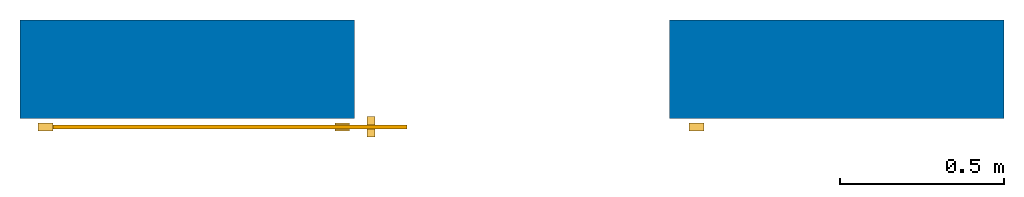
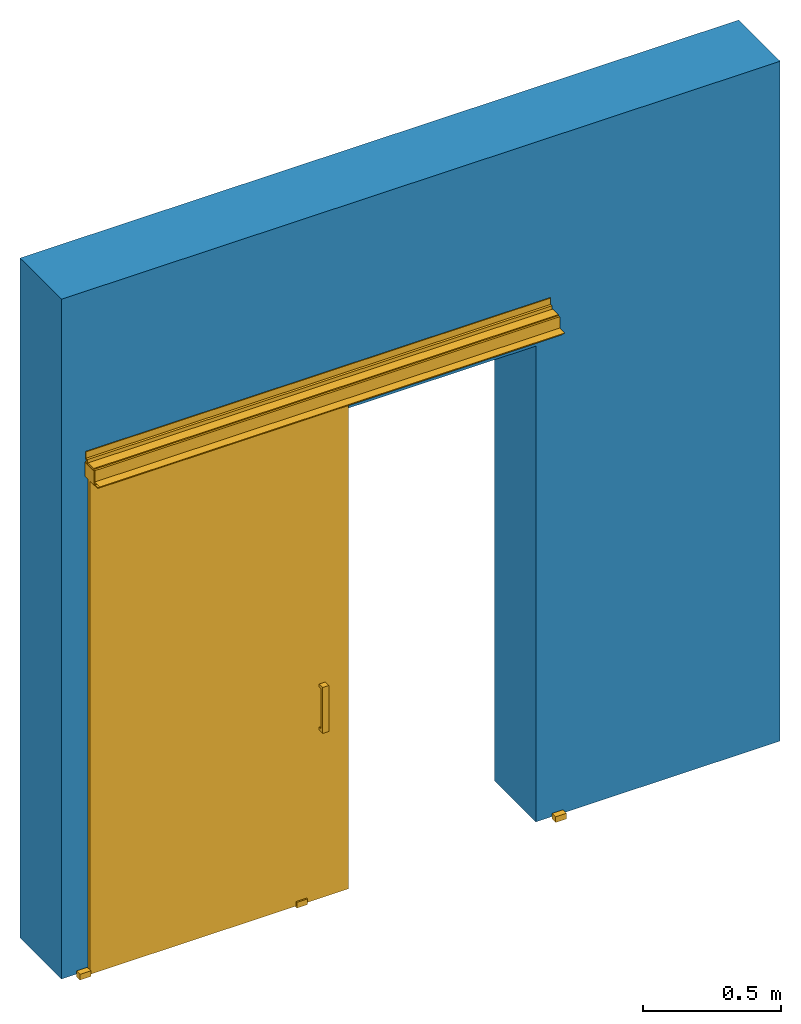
# One storey: 1 door, 1 wall, 1 opening.
"""IFC2X3 building model written with IfcOpenShell, lengths in metres."""

from ifc_helpers import new_model, entity, si_unit, converted_unit, derived_unit, direction, frame, frame_2d, origin, origin_2d_with_axis, place, context, subcontext, project, spatial, polyline, rectangle, outline, extrude, source, transform, mapped, material, material_list, layer, layer_set, layer_usage, type_object, type_shapes, element, fill, save


model = new_model("IFC2X3")

# Units and contexts
model_context = context("Model", 3, precision=1e-05, world=origin(), true_north=direction((6.12303176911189e-17, 1.0)))
body_context = subcontext(model_context, "Body", "Model", "MODEL_VIEW")
ifc_project = project(units=[si_unit("LENGTHUNIT", "METRE"), si_unit("AREAUNIT", "SQUARE_METRE"), si_unit("VOLUMEUNIT", "CUBIC_METRE"), converted_unit("PLANEANGLEUNIT", "DEGREE", entity("IfcRatioMeasure", 0.0174532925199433), si_unit("PLANEANGLEUNIT", "RADIAN"), dimensions=[0, 0, 0, 0, 0, 0, 0]), si_unit("MASSUNIT", "GRAM", prefix="KILO"), si_unit("TIMEUNIT", "SECOND"), si_unit("FREQUENCYUNIT", "HERTZ"), si_unit("THERMODYNAMICTEMPERATUREUNIT", "DEGREE_CELSIUS"), derived_unit("THERMALTRANSMITTANCEUNIT", [(si_unit("MASSUNIT", "GRAM", prefix="KILO"), 1), (si_unit("THERMODYNAMICTEMPERATUREUNIT", "KELVIN"), -1), (si_unit("TIMEUNIT", "SECOND"), -3)]), derived_unit("VOLUMETRICFLOWRATEUNIT", [(si_unit("LENGTHUNIT", "METRE"), 3), (si_unit("TIMEUNIT", "SECOND"), -1)]), si_unit("ELECTRICCURRENTUNIT", "AMPERE"), si_unit("ELECTRICVOLTAGEUNIT", "VOLT"), si_unit("POWERUNIT", "WATT"), si_unit("FORCEUNIT", "NEWTON", prefix="KILO"), si_unit("ILLUMINANCEUNIT", "LUX"), si_unit("LUMINOUSFLUXUNIT", "LUMEN"), si_unit("LUMINOUSINTENSITYUNIT", "CANDELA"), derived_unit("USERDEFINED", [(si_unit("MASSUNIT", "GRAM", prefix="KILO"), -1), (si_unit("LENGTHUNIT", "METRE"), -2), (si_unit("TIMEUNIT", "SECOND"), 3), (si_unit("LUMINOUSFLUXUNIT", "LUMEN"), 1)]), derived_unit("LINEARVELOCITYUNIT", [(si_unit("LENGTHUNIT", "METRE"), 1), (si_unit("TIMEUNIT", "SECOND"), -1)]), si_unit("PRESSUREUNIT", "PASCAL"), derived_unit("USERDEFINED", [(si_unit("LENGTHUNIT", "METRE"), -2), (si_unit("MASSUNIT", "GRAM", prefix="KILO"), 1), (si_unit("TIMEUNIT", "SECOND"), -2)])], contexts=[model_context])

# Site, building, storey
site_placement = place(None, origin())
site = spatial("IfcSite", under=ifc_project, at=site_placement, Name="Default", CompositionType="ELEMENT")
building_placement = place(site_placement, origin())
building = spatial("IfcBuilding", under=site, at=building_placement, CompositionType="ELEMENT")
storey_placement = place(building_placement, origin())
storey = spatial("IfcBuildingStorey", under=building, at=storey_placement, Name="Nivel 1", CompositionType="ELEMENT", Elevation=0.0)

# Wall, opening, door
ifc_material_1 = material(Name="Muro por defecto")
ifc_layer = layer(ifc_material_1, 0.3)
ifc_layer_set = layer_set([ifc_layer], Name="Basic Wall:Por defecto - 30 cm")
ifc_layer_usage = layer_usage(ifc_layer_set, "AXIS2", "NEGATIVE", 0.15)
wall_type = type_object("IfcWallType", Name="Basic Wall:Por defecto - 30 cm", PredefinedType="STANDARD", material=ifc_layer_set)
wall_placement = place(storey_placement, frame((-2.65000341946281, 0.286891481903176, 0.0)))
wall = element("IfcWallStandardCase", 1, at=wall_placement, inside=storey, type_object=wall_type, material=ifc_layer_usage, Name="Basic Wall:Por defecto - 30 cm", ObjectType="Basic Wall:Por defecto - 30 cm", context=body_context, shape_type="SweptSolid", body=[
    extrude(rectangle(XDim=3.0, YDim=0.3, at=frame_2d((1.5, 0.0), x_axis=(-1.0, 0.0))), origin(), (0.0, 0.0, 1.0), 3.0),
])
opening_placement = place(wall_placement, frame((1.02, -0.150000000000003, 0.0)))
opening = element("IfcOpeningElement", 2, at=opening_placement, cuts=wall, Name="EU-2015_Door_Klein_Unikglass+_Sliding:Default:1", ObjectType="Opening", context=body_context, shape_type="SweptSolid", body=[
    extrude(rectangle(XDim=2.09999999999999, YDim=0.96, at=frame_2d((1.04999999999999, 0.48), x_axis=(1.0, 0.0))), frame((0.0, 0.0, 0.0), z_axis=(0.0, 1.0, 0.0), x_axis=(0.0, 0.0, 1.0)), (0.0, 0.0, 1.0), 0.3),
])
ifc_material_2 = material(Name="Aluminium, Anodized Silver")
ifc_material_3 = material(Name="Acetal Resin, White")
ifc_material_4 = material(Name="Glass")
ifc_material_list_1 = material_list([ifc_material_2, ifc_material_3, ifc_material_4])
ifc_material_list_2 = material_list([ifc_material_2, ifc_material_3, ifc_material_4])
door_style = type_object("IfcDoorStyle", Name="Default", ConstructionType="NOTDEFINED", OperationType="NOTDEFINED", ParameterTakesPrecedence=False, Sizeable=False, material=ifc_material_list_2)
shared_shape = source(origin(), body_context, "Body", "SweptSolid", [
    extrude(outline(polyline([(-0.1016, -0.00952500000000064), (-0.0889, -0.00952500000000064), (-0.0889, 0.00317499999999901), (0.0889000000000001, 0.0031749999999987), (0.0889, -0.00952499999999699), (0.1016, -0.00952499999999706), (0.1016, 0.0158749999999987), (-0.1016, 0.015874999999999), (-0.1016, -0.00952500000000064)])), frame((0.0373000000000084, -0.0104750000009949, 0.849999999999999), z_axis=(1.0, 0.0, 0.0), x_axis=(0.0, 0.0, -1.0)), (0.0, 0.0, 1.0), 0.0253999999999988),
    extrude(outline(polyline([(-0.00952500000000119, -0.1016), (0.0158749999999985, -0.1016), (0.0158749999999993, 0.1016), (-0.00952499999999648, 0.1016), (-0.00952499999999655, 0.0889000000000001), (0.00317499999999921, 0.0889000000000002), (0.00317499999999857, -0.0888999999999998), (-0.00952500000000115, -0.0888999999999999), (-0.00952500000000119, -0.1016)])), frame((0.0373000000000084, -0.0415250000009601, 0.85), z_axis=(1.0, 0.0, 0.0), x_axis=(0.0, -1.0, 0.0)), (0.0, 0.0, 1.0), 0.0253999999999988),
    extrude(outline(polyline([(-0.00369316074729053, -0.0466798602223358), (0.0196068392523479, -0.0466798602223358), (0.0196068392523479, -0.0433825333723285), (-0.00139316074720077, -0.0433825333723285), (-0.00139316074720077, -0.0316825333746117), (0.0346068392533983, -0.0316825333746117), (0.0346068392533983, -0.0304825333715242), (-0.00139316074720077, -0.0304825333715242), (-0.00139316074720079, 0.0314209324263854), (-0.0110773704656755, 0.0314209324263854), (-0.0110773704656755, 0.0296250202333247), (-0.00594314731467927, 0.0296250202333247), (-0.00594314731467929, 0.0262691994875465), (-0.0136931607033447, 0.0262691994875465), (-0.0136931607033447, 0.024473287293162), (-0.00594314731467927, 0.024473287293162), (-0.00594314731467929, 0.0211174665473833), (-0.0110773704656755, 0.0211174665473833), (-0.0110773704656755, 0.0193215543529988), (-0.00369316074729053, 0.0193215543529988), (-0.00369316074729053, -0.0466798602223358)])), frame((0.0, 0.00369316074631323, 2.23048253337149), z_axis=(1.0, 0.0, 0.0), x_axis=(0.0, 1.0, 0.0)), (0.0, 0.0, 1.0), 0.96),
    extrude(outline(polyline([(-0.0519130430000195, -0.0291667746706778), (-0.0519130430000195, -0.0326667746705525), (-0.020413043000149, -0.0326667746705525), (-0.020413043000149, -0.0252825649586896), (-0.018617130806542, -0.0252825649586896), (-0.018617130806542, -0.0304167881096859), (-0.0171169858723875, -0.0304167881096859), (-0.0171169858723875, -0.0226667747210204), (-0.0116133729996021, -0.0226667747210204), (-0.0116133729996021, -0.0304167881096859), (-0.0101095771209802, -0.0304167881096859), (-0.0101095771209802, -0.0252825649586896), (-0.00831366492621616, -0.0252825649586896), (-0.00831366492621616, -0.0326667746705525), (-0.00481225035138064, -0.0326667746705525), (-0.00481225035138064, 0.0333332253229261), (0.057687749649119, 0.0333332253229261), (0.057687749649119, 0.0566332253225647), (0.0543904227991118, 0.0566332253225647), (0.0543904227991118, 0.035633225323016), (0.0426904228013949, 0.035633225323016), (0.0426904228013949, 0.071633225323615), (0.0414904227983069, 0.071633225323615), (0.0414904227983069, 0.035633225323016), (-0.00831366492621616, 0.035633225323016), (-0.00831366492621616, 0.0273832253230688), (-0.0128095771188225, 0.0273832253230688), (-0.0128095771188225, -0.0125167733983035), (-0.00831366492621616, -0.0125167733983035), (-0.00831366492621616, -0.0191667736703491), (-0.0239130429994, -0.0191667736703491), (-0.0239130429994, -0.0291667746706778), (-0.0519130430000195, -0.0291667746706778)])), frame((-0.920000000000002, -0.032666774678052, 2.24149042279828), z_axis=(-1.0, 0.0, 0.0), x_axis=(0.0, 0.0, -1.0)), (0.0, 0.0, -1.0), 1.94),
    extrude(rectangle(XDim=0.0660000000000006, YDim=0.00200000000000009, at=origin_2d_with_axis()), frame((-0.921000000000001, -0.0330000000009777, 2.18380267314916), z_axis=(0.0, 0.0, 1.0), x_axis=(0.0, -1.0, 0.0)), (0.0, 0.0, 1.0), 0.0625000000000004),
    extrude(rectangle(XDim=0.0660000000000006, YDim=0.00200000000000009, at=origin_2d_with_axis()), frame((1.021, -0.0330000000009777, 2.18380267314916), z_axis=(0.0, 0.0, 1.0), x_axis=(0.0, -1.0, 0.0)), (0.0, 0.0, 1.0), 0.0625000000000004),
    extrude(outline(polyline([(-0.0315357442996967, 0.00245170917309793), (-0.0395754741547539, -0.0147895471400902), (0.0170687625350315, -0.0412031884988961), (0.0242347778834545, -0.0258356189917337), (0.0228753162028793, -0.0252016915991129), (0.0167658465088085, -0.0383034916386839), (0.00815592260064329, -0.0342886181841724), (0.0121741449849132, -0.0256715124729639), (0.00572067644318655, -0.0226622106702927), (0.00375260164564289, -0.0268827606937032), (0.00748714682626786, -0.0286242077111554), (0.00543699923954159, -0.0330207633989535), (-0.0367063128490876, -0.0133690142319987), (-0.0307279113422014, -0.000548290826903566), (-0.0279694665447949, -0.000548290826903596), (-0.0210855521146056, 0.0142143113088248), (-0.0228586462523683, 0.0163274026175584), (-0.010501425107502, 0.0428275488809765), (-0.00868880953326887, 0.0419823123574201), (-0.014922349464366, 0.028614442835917), (0.00701067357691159, 0.0183869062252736), (0.00886867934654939, 0.0223714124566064), (0.019377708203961, 0.0174709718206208), (0.0237532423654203, 0.0268543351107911), (0.0429707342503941, 0.0178930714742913), (0.0317713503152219, -0.00612408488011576), (0.033130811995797, -0.00675801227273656), (0.0449615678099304, 0.0186131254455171), (-0.0116826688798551, 0.0450267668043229), (-0.0256760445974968, 0.0150178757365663), (-0.0242575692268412, 0.0133274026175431), (-0.0293289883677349, 0.00245170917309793), (-0.0315357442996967, 0.00245170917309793)])), frame((-0.919999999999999, -0.0301291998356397, 2.21668544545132), z_axis=(-1.0, 0.0, 0.0), x_axis=(0.0, -0.422618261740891, -0.906307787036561)), (0.0, 0.0, -1.0), 1.94),
    extrude(rectangle(XDim=1.08, YDim=0.012, at=frame_2d((5.55111512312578e-17, -1.69135538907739e-17), x_axis=(1.0, 0.0))), frame((-0.38, -0.0260000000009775, 0.00499999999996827), z_axis=(0.0, 0.0, 1.0), x_axis=(-1.0, 0.0, 0.0)), (0.0, 0.0, 1.0), 2.20280000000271),
    extrude(rectangle(XDim=0.045000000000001, YDim=0.025, at=frame_2d((-6.76542155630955e-17, 0.0), x_axis=(1.0, 0.0))), frame((1.0425, -0.0260000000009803, 0.0), z_axis=(0.0, 0.0, 1.0), x_axis=(-1.0, 0.0, 0.0)), (0.0, 0.0, 1.0), 0.025),
    extrude(outline(polyline([(-0.0112500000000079, -0.00599999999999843), (-0.0112500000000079, -0.0125000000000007), (0.0137499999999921, -0.0125000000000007), (0.0137499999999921, 0.0124999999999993), (-0.0112500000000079, 0.0124999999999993), (-0.0112500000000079, 0.00599999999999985), (0.0087500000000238, 0.00599999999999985), (0.0087500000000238, -0.00599999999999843), (-0.0112500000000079, -0.00599999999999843)])), frame((-0.0600000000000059, -0.0260000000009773, 0.0137499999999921), z_axis=(-1.0, 0.0, 0.0), x_axis=(0.0, 0.0, -1.0)), (0.0, 0.0, -1.0), 0.045),
    extrude(rectangle(XDim=0.0450000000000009, YDim=0.025, at=frame_2d((1.35308431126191e-16, 0.0), x_axis=(1.0, 0.0))), frame((-0.942500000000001, -0.0260000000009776, 0.0), z_axis=(0.0, 0.0, 1.0), x_axis=(-1.0, 0.0, 0.0)), (0.0, 0.0, 1.0), 0.025),
])
type_shapes(door_style, [shared_shape])
door_placement = place(opening_placement, origin())
door = element("IfcDoor", 3, at=door_placement, inside=storey, type_object=door_style, material=ifc_material_list_1, Name="EU-2015_Door_Klein_Unikglass+_Sliding:Default", ObjectType="Default", OverallHeight=2.09999999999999, OverallWidth=0.96, context=body_context, shape_type="MappedRepresentation", body=[
    mapped(shared_shape, transform((0.0, 0.0, 0.0), scale=1.0)),
])
fill(opening, door)

save(model, "model.ifc")
